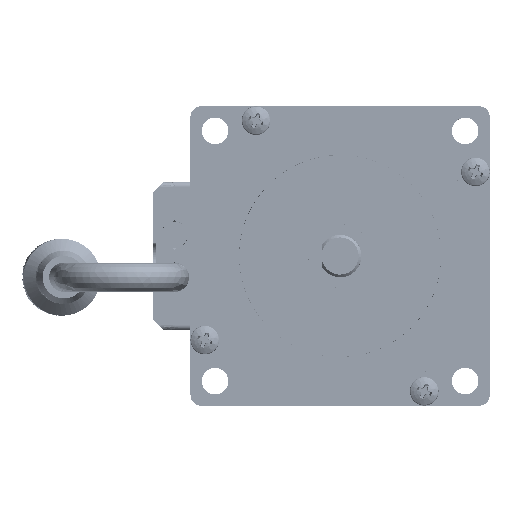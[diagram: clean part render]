
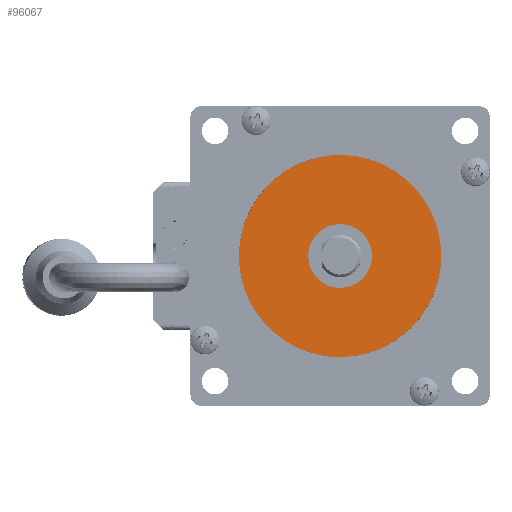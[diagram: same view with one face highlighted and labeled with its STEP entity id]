
A CAD part, left-side view. The second image highlights one B-rep face of the part: STEP entity #96067.
In plain terms, the highlighted free-form (B-spline) face has degree [1, 1] with [2, 2] control points.
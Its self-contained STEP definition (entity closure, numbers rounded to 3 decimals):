
#486 = ORIENTED_EDGE ( 'NONE', *, *, #75998, .F. ) ;
#1862 = CARTESIAN_POINT ( 'NONE',  ( -1.6, 0., -19.05 ) ) ;
#2875 = CARTESIAN_POINT ( 'NONE',  ( -1.6, -0.788, 6. ) ) ;
#4504 = CARTESIAN_POINT ( 'NONE',  ( -1.6, -19.05, 0. ) ) ;
#5111 = CARTESIAN_POINT ( 'NONE',  ( -1.6, -11.159, 19.05 ) ) ;
#7029 = CARTESIAN_POINT ( 'NONE',  ( -1.6, 5.242, -3.024 ) ) ;
#8237 = CARTESIAN_POINT ( 'NONE',  ( -1.6, 3.685, 4.8 ) ) ;
#10064 = CARTESIAN_POINT ( 'NONE',  ( -1.6, 1.568, -5.845 ) ) ;
#10300 = CARTESIAN_POINT ( 'NONE',  ( -1.6, -0.788, -6. ) ) ;
#13017 = VERTEX_POINT ( 'NONE', #102521 ) ;
#13379 = VERTEX_POINT ( 'NONE', #90642 ) ;
#13758 = CARTESIAN_POINT ( 'NONE',  ( -1.6, 0., -19.05 ) ) ;
#16901 = CARTESIAN_POINT ( 'NONE',  ( -1.6, 4.8, -3.685 ) ) ;
#17508 = CARTESIAN_POINT ( 'NONE',  ( -1.6, 5.845, -1.568 ) ) ;
#18756 = CARTESIAN_POINT ( 'NONE',  ( -1.6, 0., -19.05 ) ) ;
#19380 = FACE_BOUND ( 'NONE', #49244, .T. ) ;
#21388 = CARTESIAN_POINT ( 'NONE',  ( -1.6, -3.024, -5.242 ) ) ;
#23651 = CARTESIAN_POINT ( 'NONE',  ( -1.6, -19.05, 11.159 ) ) ;
#26789 = CARTESIAN_POINT ( 'NONE',  ( -1.6, 1.568, 5.845 ) ) ;
#28617 = CARTESIAN_POINT ( 'NONE',  ( -1.6, 0., -6. ) ) ;
#29383 = ORIENTED_EDGE ( 'NONE', *, *, #120721, .T. ) ;
#29488 = CARTESIAN_POINT ( 'NONE',  ( -1.6, -1.568, 5.845 ) ) ;
#33550 = B_SPLINE_SURFACE_WITH_KNOTS ( 'NONE', 1, 1, ( 
 ( #47794, #93540 ),
 ( #85489, #104696 ) ),
 .UNSPECIFIED., .F., .F., .F.,
 ( 2, 2 ),
 ( 2, 2 ),
 ( 0., 1. ),
 ( 0., 1. ),
 .UNSPECIFIED. ) ;
#39711 = EDGE_CURVE ( 'NONE', #95171, #13017, #120690, .T. ) ;
#40561 = CARTESIAN_POINT ( 'NONE',  ( -1.6, -3.685, 4.8 ) ) ;
#46568 = FACE_OUTER_BOUND ( 'NONE', #74634, .T. ) ;
#47794 = CARTESIAN_POINT ( 'NONE',  ( -1.6, 19.279, -19.279 ) ) ;
#47959 = CARTESIAN_POINT ( 'NONE',  ( -1.6, -3.685, -4.8 ) ) ;
#49244 = EDGE_LOOP ( 'NONE', ( #102376, #29383 ) ) ;
#49785 = ORIENTED_EDGE ( 'NONE', *, *, #39711, .F. ) ;
#53961 = CARTESIAN_POINT ( 'NONE',  ( -1.6, 3.024, 5.242 ) ) ;
#56589 = CARTESIAN_POINT ( 'NONE',  ( -1.6, 0., -6. ) ) ;
#57191 = VERTEX_POINT ( 'NONE', #72721 ) ;
#58449 = CARTESIAN_POINT ( 'NONE',  ( -1.6, -4.8, -3.685 ) ) ;
#59186 = B_SPLINE_CURVE_WITH_KNOTS ( 'NONE', 3,
 ( #63874, #82385, #26789, #53961, #8237, #91668, #102190, #101590, #82991, #111458, #17508, #7029, #16901, #121915, #92854, #10064, #67516, #28617 ),
 .UNSPECIFIED., .F., .F.,
 ( 4, 2, 2, 2, 2, 2, 2, 2, 4 ),
 ( 0., 0.393, 0.785, 1.178, 1.571, 1.963, 2.356, 2.749, 3.142 ),
 .UNSPECIFIED. ) ;
#63874 = CARTESIAN_POINT ( 'NONE',  ( -1.6, 0., 6. ) ) ;
#67516 = CARTESIAN_POINT ( 'NONE',  ( -1.6, 0.788, -6. ) ) ;
#72721 = CARTESIAN_POINT ( 'NONE',  ( -1.6, 0., 6. ) ) ;
#74634 = EDGE_LOOP ( 'NONE', ( #486, #49785 ) ) ;
#75998 = EDGE_CURVE ( 'NONE', #13017, #95171, #78265, .T. ) ;
#76396 = CARTESIAN_POINT ( 'NONE',  ( -1.6, -5.845, 1.568 ) ) ;
#77007 = CARTESIAN_POINT ( 'NONE',  ( -1.6, -1.568, -5.845 ) ) ;
#78212 = CARTESIAN_POINT ( 'NONE',  ( -1.6, 0., 6. ) ) ;
#78265 =( BOUNDED_CURVE ( )  B_SPLINE_CURVE ( 3, ( #86468, #116154, #88285, #1862 ),
 .UNSPECIFIED., .F., .F. ) 
 B_SPLINE_CURVE_WITH_KNOTS ( ( 4, 4 ),
 ( -3.142, 0. ),
 .UNSPECIFIED. ) 
 CURVE ( )  GEOMETRIC_REPRESENTATION_ITEM ( )  RATIONAL_B_SPLINE_CURVE ( ( 1., 0.333, 0.333, 1. ) ) 
 REPRESENTATION_ITEM ( '' )  );
#82385 = CARTESIAN_POINT ( 'NONE',  ( -1.6, 0.788, 6. ) ) ;
#82991 = CARTESIAN_POINT ( 'NONE',  ( -1.6, 6., 0.788 ) ) ;
#84009 = EDGE_CURVE ( 'NONE', #57191, #13379, #59186, .T. ) ;
#85489 = CARTESIAN_POINT ( 'NONE',  ( -1.6, 19.279, 19.279 ) ) ;
#85656 = CARTESIAN_POINT ( 'NONE',  ( -1.6, -3.024, 5.242 ) ) ;
#86271 = CARTESIAN_POINT ( 'NONE',  ( -1.6, -5.242, 3.024 ) ) ;
#86468 = CARTESIAN_POINT ( 'NONE',  ( -1.6, 0., 19.05 ) ) ;
#87482 = CARTESIAN_POINT ( 'NONE',  ( -1.6, -6., -0.788 ) ) ;
#88285 = CARTESIAN_POINT ( 'NONE',  ( -1.6, 38.1, -19.05 ) ) ;
#89129 = CARTESIAN_POINT ( 'NONE',  ( -1.6, -11.159, -19.05 ) ) ;
#89750 = CARTESIAN_POINT ( 'NONE',  ( -1.6, -19.05, -11.159 ) ) ;
#90642 = CARTESIAN_POINT ( 'NONE',  ( -1.6, 0., -6. ) ) ;
#91668 = CARTESIAN_POINT ( 'NONE',  ( -1.6, 4.8, 3.685 ) ) ;
#92854 = CARTESIAN_POINT ( 'NONE',  ( -1.6, 3.024, -5.242 ) ) ;
#93540 = CARTESIAN_POINT ( 'NONE',  ( -1.6, -19.279, -19.279 ) ) ;
#95171 = VERTEX_POINT ( 'NONE', #18756 ) ;
#95547 = CARTESIAN_POINT ( 'NONE',  ( -1.6, -4.8, 3.685 ) ) ;
#96067 = ADVANCED_FACE ( 'NONE', ( #19380, #46568 ), #33550, .T. ) ;
#96163 = CARTESIAN_POINT ( 'NONE',  ( -1.6, -5.242, -3.024 ) ) ;
#96684 = B_SPLINE_CURVE_WITH_KNOTS ( 'NONE', 3,
 ( #56589, #10300, #77007, #21388, #47959, #58449, #96163, #115368, #87482, #113534, #76396, #86271, #95547, #40561, #85656, #29488, #2875, #78212 ),
 .UNSPECIFIED., .F., .F.,
 ( 4, 2, 2, 2, 2, 2, 2, 2, 4 ),
 ( 0., 0.393, 0.785, 1.178, 1.571, 1.963, 2.356, 2.749, 3.142 ),
 .UNSPECIFIED. ) ;
#101590 = CARTESIAN_POINT ( 'NONE',  ( -1.6, 5.845, 1.568 ) ) ;
#102190 = CARTESIAN_POINT ( 'NONE',  ( -1.6, 5.242, 3.024 ) ) ;
#102376 = ORIENTED_EDGE ( 'NONE', *, *, #84009, .T. ) ;
#102521 = CARTESIAN_POINT ( 'NONE',  ( -1.6, 0., 19.05 ) ) ;
#104696 = CARTESIAN_POINT ( 'NONE',  ( -1.6, -19.279, 19.279 ) ) ;
#111458 = CARTESIAN_POINT ( 'NONE',  ( -1.6, 6., -0.788 ) ) ;
#113534 = CARTESIAN_POINT ( 'NONE',  ( -1.6, -6., 0.788 ) ) ;
#115368 = CARTESIAN_POINT ( 'NONE',  ( -1.6, -5.845, -1.568 ) ) ;
#116154 = CARTESIAN_POINT ( 'NONE',  ( -1.6, 38.1, 19.05 ) ) ;
#120610 = CARTESIAN_POINT ( 'NONE',  ( -1.6, 0., 19.05 ) ) ;
#120690 =( BOUNDED_CURVE ( )  B_SPLINE_CURVE ( 3, ( #13758, #89129, #89750, #4504, #23651, #5111, #120610 ),
 .UNSPECIFIED., .F., .F. ) 
 B_SPLINE_CURVE_WITH_KNOTS ( ( 4, 3, 4 ),
 ( -3.142, -1.571, 0. ),
 .UNSPECIFIED. ) 
 CURVE ( )  GEOMETRIC_REPRESENTATION_ITEM ( )  RATIONAL_B_SPLINE_CURVE ( ( 1., 0.805, 0.805, 1., 0.805, 0.805, 1. ) ) 
 REPRESENTATION_ITEM ( '' )  );
#120721 = EDGE_CURVE ( 'NONE', #13379, #57191, #96684, .T. ) ;
#121915 = CARTESIAN_POINT ( 'NONE',  ( -1.6, 3.685, -4.8 ) ) ;
